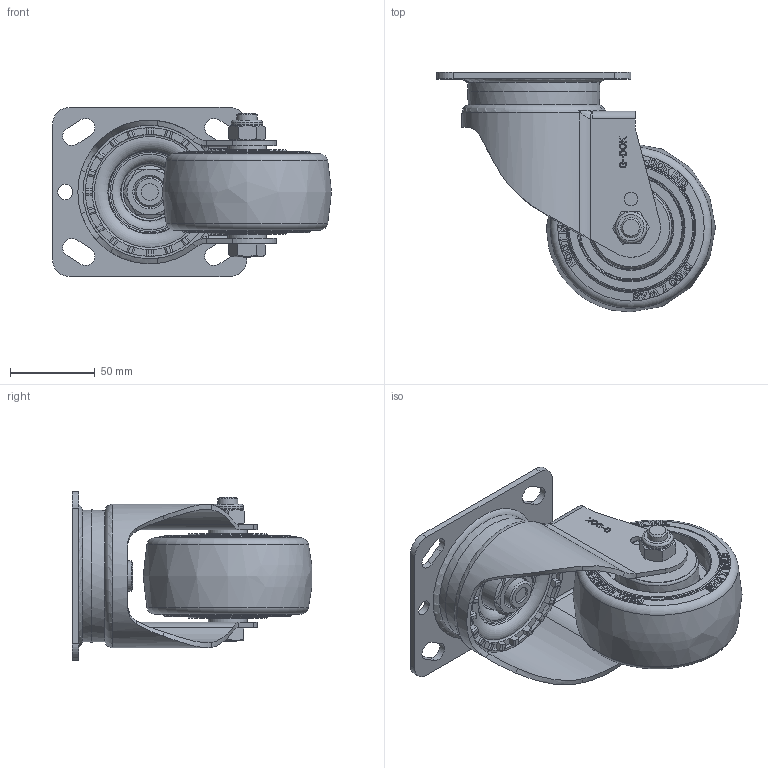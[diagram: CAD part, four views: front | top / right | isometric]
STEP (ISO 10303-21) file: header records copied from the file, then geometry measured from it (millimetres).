
FILE_DESCRIPTION(/* description */ (''),/* implementation_level */ '2;1');
FILE_NAME(/* name */ 'C:\Users\admin\Desktop\업무폴더\일자별 업무\2026\05월\05.15\변환\SPH-100-ASF-TUD&HRD.ipt.stp',/* time_stamp */ '2026-05-15T13:16:39+09:00',/* author */ ('admin'),/* organization */ ('지덕산업'),/* preprocessor_version */ 'ST-DEVELOPER v18.1',/* originating_system */ 'Autodesk Inventor 2021',/* authorisation */ '');
FILE_SCHEMA (('CONFIG_CONTROL_DESIGN'));
Length unit declared in the file: millimetre
Products named in the file (1): SPH-100-ASF-TUD&HRD
Bounding box: 165 x 141.75 x 100 mm (x, y, z)
Volume: 523696.9 mm3; surface area: 100969.9 mm2
Topology: 1 solids, 1 shells, 1210 faces, 3228 edges, 2122 vertices
Faces by surface type: plane 572, bspline 389, cylinder 140, cone 77, torus 32
Full cylindrical faces by diameter (mm): 8 x2, 9 x2, 10 x1, 12 x1, 18 x2, 18.5 x1, 31 x1, 31.177 x1, 46.001 x2
Entity records: 42503 total; most frequent: CARTESIAN_POINT 16009, ORIENTED_EDGE 6452, DIRECTION 3984, EDGE_CURVE 3226, VERTEX_POINT 2122, LINE 1572, VECTOR 1572, EDGE_LOOP 1332
